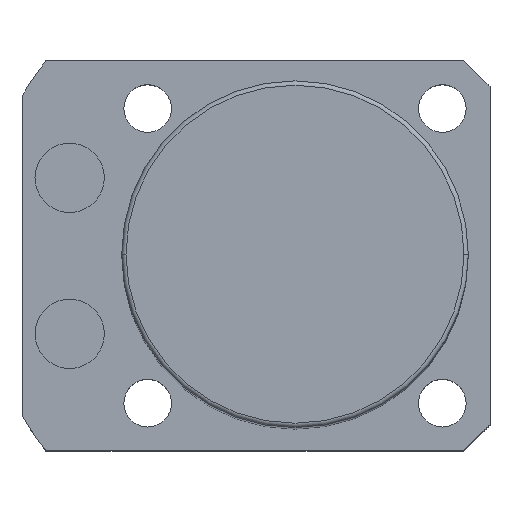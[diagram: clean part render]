
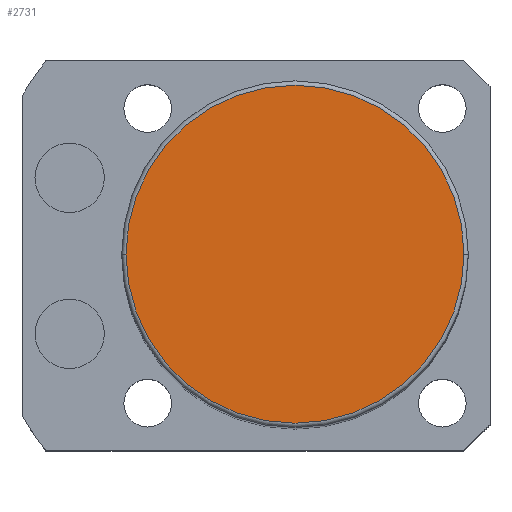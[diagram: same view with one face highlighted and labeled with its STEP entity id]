
A CAD part, top view. The second image highlights one B-rep face of the part: STEP entity #2731.
In plain terms, the highlighted planar face has unit normal (0, 0, 1).
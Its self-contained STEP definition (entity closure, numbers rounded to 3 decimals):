
#34 = CIRCLE ( 'NONE', #4927, 19.5 ) ;
#111 = CIRCLE ( 'NONE', #5162, 19.5 ) ;
#324 = FACE_OUTER_BOUND ( 'NONE', #913, .T. ) ;
#913 = EDGE_LOOP ( 'NONE', ( #4421, #5832 ) ) ;
#1390 = EDGE_CURVE ( 'NONE', #5891, #1993, #111, .T. ) ;
#1509 = AXIS2_PLACEMENT_3D ( 'NONE', #3274, #2450, #5238 ) ;
#1632 = DIRECTION ( 'NONE',  ( 1., 0., 0. ) ) ;
#1865 = CARTESIAN_POINT ( 'NONE',  ( -19.5, 0., 118.5 ) ) ;
#1993 = VERTEX_POINT ( 'NONE', #2143 ) ;
#2058 = DIRECTION ( 'NONE',  ( 1., 0., 0. ) ) ;
#2111 = DIRECTION ( 'NONE',  ( 0., 0., 1. ) ) ;
#2143 = CARTESIAN_POINT ( 'NONE',  ( 19.5, 0., 118.5 ) ) ;
#2450 = DIRECTION ( 'NONE',  ( 0., 0., 1. ) ) ;
#2731 = ADVANCED_FACE ( 'NONE', ( #324 ), #4701, .T. ) ;
#3274 = CARTESIAN_POINT ( 'NONE',  ( 0., 0., 118.5 ) ) ;
#3462 = CARTESIAN_POINT ( 'NONE',  ( 0., 0., 118.5 ) ) ;
#4409 = EDGE_CURVE ( 'NONE', #1993, #5891, #34, .T. ) ;
#4421 = ORIENTED_EDGE ( 'NONE', *, *, #4409, .T. ) ;
#4701 = PLANE ( 'NONE',  #1509 ) ;
#4745 = CARTESIAN_POINT ( 'NONE',  ( 0., 0., 118.5 ) ) ;
#4806 = DIRECTION ( 'NONE',  ( 0., 0., 1. ) ) ;
#4927 = AXIS2_PLACEMENT_3D ( 'NONE', #4745, #4806, #2058 ) ;
#5162 = AXIS2_PLACEMENT_3D ( 'NONE', #3462, #2111, #1632 ) ;
#5238 = DIRECTION ( 'NONE',  ( 1., 0., 0. ) ) ;
#5832 = ORIENTED_EDGE ( 'NONE', *, *, #1390, .T. ) ;
#5891 = VERTEX_POINT ( 'NONE', #1865 ) ;
